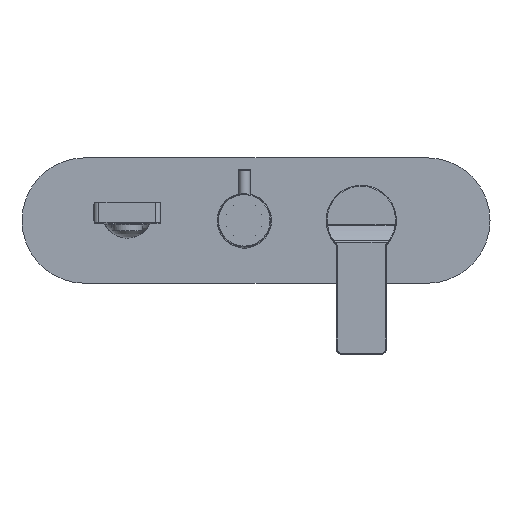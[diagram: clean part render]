
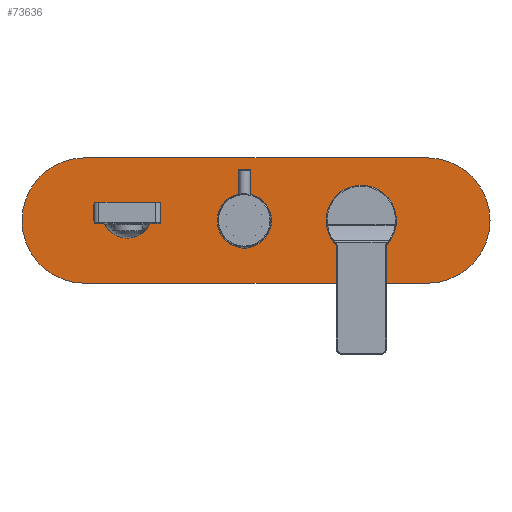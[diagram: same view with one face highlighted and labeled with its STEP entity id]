
A CAD part, top view. The second image highlights one B-rep face of the part: STEP entity #73636.
In plain terms, the highlighted planar face has unit normal (0, 0, 1).
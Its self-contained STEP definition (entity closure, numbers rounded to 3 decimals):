
#60691=DIRECTION('',(-1.,0.,0.));
#60692=VECTOR('',#60691,205.);
#60693=CARTESIAN_POINT('',(109.5,37.5,15.5));
#60694=LINE('',#60693,#60692);
#60695=CARTESIAN_POINT('',(109.5,0.,15.5));
#60696=DIRECTION('',(0.,0.,1.));
#60697=DIRECTION('',(0.,-1.,0.));
#60698=AXIS2_PLACEMENT_3D('',#60695,#60696,#60697);
#60700=DIRECTION('',(1.,0.,0.));
#60701=VECTOR('',#60700,205.);
#60702=CARTESIAN_POINT('',(-95.5,-37.5,15.5));
#60703=LINE('',#60702,#60701);
#60704=CARTESIAN_POINT('',(-95.5,0.,15.5));
#60705=DIRECTION('',(0.,0.,1.));
#60706=DIRECTION('',(0.,1.,0.));
#60707=AXIS2_PLACEMENT_3D('',#60704,#60705,#60706);
#60709=CARTESIAN_POINT('',(70.,0.,15.5));
#60710=DIRECTION('',(0.,0.,1.));
#60711=DIRECTION('',(0.,-1.,0.));
#60712=AXIS2_PLACEMENT_3D('',#60709,#60710,#60711);
#60714=CARTESIAN_POINT('',(70.,0.,15.5));
#60715=DIRECTION('',(0.,0.,1.));
#60716=DIRECTION('',(0.,1.,0.));
#60717=AXIS2_PLACEMENT_3D('',#60714,#60715,#60716);
#60719=CARTESIAN_POINT('',(0.,0.,15.5));
#60720=DIRECTION('',(0.,0.,1.));
#60721=DIRECTION('',(0.,-1.,0.));
#60722=AXIS2_PLACEMENT_3D('',#60719,#60720,#60721);
#60724=CARTESIAN_POINT('',(0.,0.,15.5));
#60725=DIRECTION('',(0.,0.,1.));
#60726=DIRECTION('',(0.,1.,0.));
#60727=AXIS2_PLACEMENT_3D('',#60724,#60725,#60726);
#60729=DIRECTION('',(0.,-1.,0.));
#60730=VECTOR('',#60729,9.);
#60731=CARTESIAN_POINT('',(-50.,9.,15.5));
#60732=LINE('',#60731,#60730);
#60733=CARTESIAN_POINT('',(-70.,4.5,15.5));
#60734=DIRECTION('',(0.,0.,-1.));
#60735=DIRECTION('',(0.956,0.293,0.));
#60736=AXIS2_PLACEMENT_3D('',#60733,#60734,#60735);
#60738=DIRECTION('',(1.,0.,0.));
#60739=VECTOR('',#60738,39.205);
#60740=CARTESIAN_POINT('',(-89.602,10.5,15.5));
#60741=LINE('',#60740,#60739);
#60742=CARTESIAN_POINT('',(-70.,4.5,15.5));
#60743=DIRECTION('',(0.,0.,-1.));
#60744=DIRECTION('',(-0.976,0.22,0.));
#60745=AXIS2_PLACEMENT_3D('',#60742,#60743,#60744);
#60747=DIRECTION('',(0.,1.,0.));
#60748=VECTOR('',#60747,9.);
#60749=CARTESIAN_POINT('',(-90.,0.,15.5));
#60750=LINE('',#60749,#60748);
#60751=CARTESIAN_POINT('',(-70.,4.5,15.5));
#60752=DIRECTION('',(0.,0.,-1.));
#60753=DIRECTION('',(-0.956,-0.293,0.));
#60754=AXIS2_PLACEMENT_3D('',#60751,#60752,#60753);
#60756=DIRECTION('',(-1.,0.,0.));
#60757=VECTOR('',#60756,4.922);
#60758=CARTESIAN_POINT('',(-84.68,-1.5,15.5));
#60759=LINE('',#60758,#60757);
#60760=DIRECTION('',(-0.819,0.574,0.));
#60761=VECTOR('',#60760,1.715);
#60762=CARTESIAN_POINT('',(-83.275,-2.484,15.5));
#60763=LINE('',#60762,#60761);
#60764=CARTESIAN_POINT('',(-83.275,-2.484,15.5));
#60765=CARTESIAN_POINT('',(-82.432,-4.086,15.5));
#60766=CARTESIAN_POINT('',(-80.159,-6.982,15.5));
#60767=CARTESIAN_POINT('',(-75.432,-9.837,15.5));
#60768=CARTESIAN_POINT('',(-71.811,-10.5,15.5));
#60769=CARTESIAN_POINT('',(-70.,-10.5,15.5));
#60771=CARTESIAN_POINT('',(-70.,-10.5,15.5));
#60772=CARTESIAN_POINT('',(-68.189,-10.5,15.5));
#60773=CARTESIAN_POINT('',(-64.568,-9.837,15.5));
#60774=CARTESIAN_POINT('',(-59.841,-6.982,15.5));
#60775=CARTESIAN_POINT('',(-57.568,-4.086,15.5));
#60776=CARTESIAN_POINT('',(-56.725,-2.484,15.5));
#60778=DIRECTION('',(-0.819,-0.574,
0.));
#60779=VECTOR('',#60778,1.715);
#60780=CARTESIAN_POINT('',(-55.32,-1.5,15.5));
#60781=LINE('',#60780,#60779);
#60782=DIRECTION('',(-1.,0.,0.));
#60783=VECTOR('',#60782,4.922);
#60784=CARTESIAN_POINT('',(-50.398,-1.5,15.5));
#60785=LINE('',#60784,#60783);
#60786=CARTESIAN_POINT('',(-70.,4.5,15.5));
#60787=DIRECTION('',(0.,0.,-1.));
#60788=DIRECTION('',(0.976,-0.22,0.));
#60789=AXIS2_PLACEMENT_3D('',#60786,#60787,#60788);
#70333=CARTESIAN_POINT('',(109.5,37.5,15.5));
#70334=CARTESIAN_POINT('',(-95.5,37.5,15.5));
#70335=VERTEX_POINT('',#70333);
#70336=VERTEX_POINT('',#70334);
#70337=CARTESIAN_POINT('',(-95.5,-37.5,15.5));
#70338=VERTEX_POINT('',#70337);
#70339=CARTESIAN_POINT('',(109.5,-37.5,15.5));
#70340=VERTEX_POINT('',#70339);
#70353=CARTESIAN_POINT('',(70.,-20.25,15.5));
#70354=CARTESIAN_POINT('',(70.,20.25,15.5));
#70355=VERTEX_POINT('',#70353);
#70356=VERTEX_POINT('',#70354);
#70357=CARTESIAN_POINT('',(0.,-16.25,15.5));
#70358=CARTESIAN_POINT('',(0.,16.25,15.5));
#70359=VERTEX_POINT('',#70357);
#70360=VERTEX_POINT('',#70358);
#71389=CARTESIAN_POINT('',(-50.,9.,15.5));
#71390=CARTESIAN_POINT('',(-50.,0.,15.5));
#71391=VERTEX_POINT('',#71389);
#71392=VERTEX_POINT('',#71390);
#71393=CARTESIAN_POINT('',(-50.398,-1.5,15.5));
#71394=CARTESIAN_POINT('',(-55.32,-1.5,15.5));
#71395=VERTEX_POINT('',#71393);
#71396=VERTEX_POINT('',#71394);
#71397=CARTESIAN_POINT('',(-84.68,-1.5,15.5));
#71398=CARTESIAN_POINT('',(-89.602,-1.5,15.5));
#71399=VERTEX_POINT('',#71397);
#71400=VERTEX_POINT('',#71398);
#71401=CARTESIAN_POINT('',(-90.,0.,15.5));
#71402=CARTESIAN_POINT('',(-90.,9.,15.5));
#71403=VERTEX_POINT('',#71401);
#71404=VERTEX_POINT('',#71402);
#71405=CARTESIAN_POINT('',(-89.602,10.5,15.5));
#71406=CARTESIAN_POINT('',(-50.398,10.5,15.5));
#71407=VERTEX_POINT('',#71405);
#71408=VERTEX_POINT('',#71406);
#71409=VERTEX_POINT('',#60771);
#71410=VERTEX_POINT('',#60776);
#71411=VERTEX_POINT('',#60764);
#73585=CARTESIAN_POINT('',(7.,0.,15.5));
#73586=DIRECTION('',(0.,0.,1.));
#73587=DIRECTION('',(-1.,0.,0.));
#73588=AXIS2_PLACEMENT_3D('',#73585,#73586,#73587);
#73589=PLANE('',#73588);
#73590=ORIENTED_EDGE('',*,*,#73537,.F.);
#73591=ORIENTED_EDGE('',*,*,#73552,.F.);
#73592=ORIENTED_EDGE('',*,*,#73566,.F.);
#73593=ORIENTED_EDGE('',*,*,#73579,.F.);
#73594=EDGE_LOOP('',(#73590,#73591,#73592,#73593));
#73595=FACE_OUTER_BOUND('',#73594,.F.);
#73597=ORIENTED_EDGE('',*,*,#73596,.T.);
#73599=ORIENTED_EDGE('',*,*,#73598,.T.);
#73600=EDGE_LOOP('',(#73597,#73599));
#73601=FACE_BOUND('',#73600,.F.);
#73603=ORIENTED_EDGE('',*,*,#73602,.T.);
#73605=ORIENTED_EDGE('',*,*,#73604,.T.);
#73606=EDGE_LOOP('',(#73603,#73605));
#73607=FACE_BOUND('',#73606,.F.);
#73609=ORIENTED_EDGE('',*,*,#73608,.F.);
#73611=ORIENTED_EDGE('',*,*,#73610,.F.);
#73613=ORIENTED_EDGE('',*,*,#73612,.F.);
#73615=ORIENTED_EDGE('',*,*,#73614,.F.);
#73617=ORIENTED_EDGE('',*,*,#73616,.F.);
#73619=ORIENTED_EDGE('',*,*,#73618,.F.);
#73621=ORIENTED_EDGE('',*,*,#73620,.F.);
#73623=ORIENTED_EDGE('',*,*,#73622,.F.);
#73625=ORIENTED_EDGE('',*,*,#73624,.T.);
#73627=ORIENTED_EDGE('',*,*,#73626,.T.);
#73629=ORIENTED_EDGE('',*,*,#73628,.F.);
#73631=ORIENTED_EDGE('',*,*,#73630,.F.);
#73633=ORIENTED_EDGE('',*,*,#73632,.F.);
#73634=EDGE_LOOP('',(#73609,#73611,#73613,#73615,#73617,#73619,#73621,#73623,
#73625,#73627,#73629,#73631,#73633));
#73635=FACE_BOUND('',#73634,.F.);
#73636=ADVANCED_FACE('',(#73595,#73601,#73607,#73635),#73589,.T.);
#60699=CIRCLE('',#60698,37.5);
#60708=CIRCLE('',#60707,37.5);
#60713=CIRCLE('',#60712,20.25);
#60718=CIRCLE('',#60717,20.25);
#60723=CIRCLE('',#60722,16.25);
#60728=CIRCLE('',#60727,16.25);
#60737=CIRCLE('',#60736,20.5);
#60746=CIRCLE('',#60745,20.5);
#60755=CIRCLE('',#60754,20.5);
#60770=B_SPLINE_CURVE_WITH_KNOTS('',3,(#60764,#60765,#60766,#60767,#60768,
#60769),.UNSPECIFIED.,.F.,.F.,(4,1,1,4),(0.,0.333,
0.667,1.),.UNSPECIFIED.);
#60777=B_SPLINE_CURVE_WITH_KNOTS('',3,(#60771,#60772,#60773,#60774,#60775,
#60776),.UNSPECIFIED.,.F.,.F.,(4,1,1,4),(0.,0.333,
0.667,1.),.UNSPECIFIED.);
#60790=CIRCLE('',#60789,20.5);
#73537=EDGE_CURVE('',#70335,#70336,#60694,.T.);
#73552=EDGE_CURVE('',#70340,#70335,#60699,.T.);
#73566=EDGE_CURVE('',#70338,#70340,#60703,.T.);
#73579=EDGE_CURVE('',#70336,#70338,#60708,.T.);
#73596=EDGE_CURVE('',#70355,#70356,#60713,.T.);
#73598=EDGE_CURVE('',#70356,#70355,#60718,.T.);
#73602=EDGE_CURVE('',#70359,#70360,#60723,.T.);
#73604=EDGE_CURVE('',#70360,#70359,#60728,.T.);
#73608=EDGE_CURVE('',#71391,#71392,#60732,.T.);
#73610=EDGE_CURVE('',#71408,#71391,#60737,.T.);
#73612=EDGE_CURVE('',#71407,#71408,#60741,.T.);
#73614=EDGE_CURVE('',#71404,#71407,#60746,.T.);
#73616=EDGE_CURVE('',#71403,#71404,#60750,.T.);
#73618=EDGE_CURVE('',#71400,#71403,#60755,.T.);
#73620=EDGE_CURVE('',#71399,#71400,#60759,.T.);
#73622=EDGE_CURVE('',#71411,#71399,#60763,.T.);
#73624=EDGE_CURVE('',#71411,#71409,#60770,.T.);
#73626=EDGE_CURVE('',#71409,#71410,#60777,.T.);
#73628=EDGE_CURVE('',#71396,#71410,#60781,.T.);
#73630=EDGE_CURVE('',#71395,#71396,#60785,.T.);
#73632=EDGE_CURVE('',#71392,#71395,#60790,.T.);
